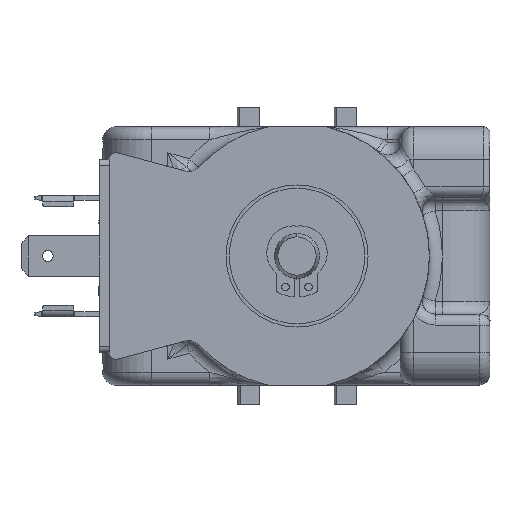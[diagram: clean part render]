
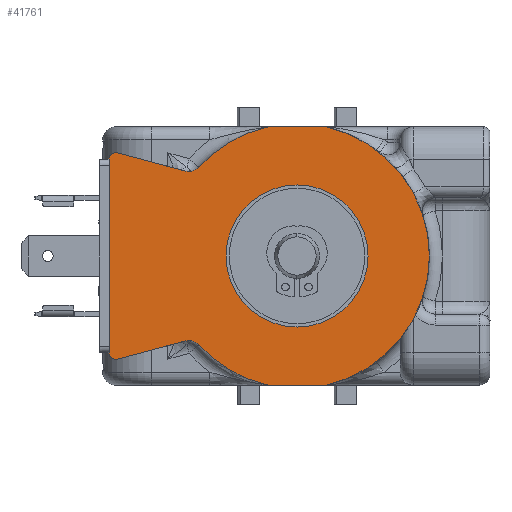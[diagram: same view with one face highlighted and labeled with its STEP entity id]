
A CAD part, front view. The second image highlights one B-rep face of the part: STEP entity #41761.
In plain terms, the highlighted planar face has unit normal (0, -1, 0).
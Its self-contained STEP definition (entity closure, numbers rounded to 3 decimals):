
#1483=DIRECTION('',(-1.,0.,0.));
#1484=VECTOR('',#1483,8.772);
#1485=CARTESIAN_POINT('',(4.5,-1.05,20.));
#1486=LINE('',#1485,#1484);
#4058=CARTESIAN_POINT('',(-28.107,-1.05,-15.025));
#4059=DIRECTION('',(0.,1.,0.));
#4060=DIRECTION('',(0.259,0.,-0.966));
#4061=AXIS2_PLACEMENT_3D('',#4058,#4059,#4060);
#4066=CARTESIAN_POINT('',(-28.107,-1.05,15.025));
#4067=DIRECTION('',(0.,1.,0.));
#4068=DIRECTION('',(-1.,0.,0.));
#4069=AXIS2_PLACEMENT_3D('',#4066,#4067,#4068);
#4074=DIRECTION('',(0.966,0.,-0.259));
#4075=VECTOR('',#4074,11.002);
#4076=CARTESIAN_POINT('',(-27.848,-1.05,15.991));
#4077=LINE('',#4076,#4075);
#4081=CARTESIAN_POINT('',(-16.703,-1.05,15.075));
#4082=DIRECTION('',(0.,-1.,0.));
#4083=DIRECTION('',(-0.259,0.,-0.966));
#4084=AXIS2_PLACEMENT_3D('',#4081,#4082,#4083);
#4089=CARTESIAN_POINT('',(0.,-1.05,0.));
#4090=DIRECTION('',(0.,1.,0.));
#4091=DIRECTION('',(-0.742,0.,0.67));
#4092=AXIS2_PLACEMENT_3D('',#4089,#4090,#4091);
#4097=CARTESIAN_POINT('',(-4.272,-1.05,18.));
#4098=DIRECTION('',(0.,1.,0.));
#4099=DIRECTION('',(-0.231,0.,0.973));
#4100=AXIS2_PLACEMENT_3D('',#4097,#4098,#4099);
#4105=CARTESIAN_POINT('',(0.,-1.05,0.));
#4106=DIRECTION('',(0.,1.,0.));
#4107=DIRECTION('',(0.22,0.,0.976));
#4108=AXIS2_PLACEMENT_3D('',#4105,#4106,#4107);
#4113=CARTESIAN_POINT('',(0.,-1.05,0.));
#4114=DIRECTION('',(0.,1.,0.));
#4115=DIRECTION('',(1.,0.,0.));
#4116=AXIS2_PLACEMENT_3D('',#4113,#4114,#4115);
#4121=DIRECTION('',(-1.,0.,0.));
#4122=VECTOR('',#4121,8.772);
#4123=CARTESIAN_POINT('',(4.5,-1.05,-20.));
#4124=LINE('',#4123,#4122);
#4128=CARTESIAN_POINT('',(-4.272,-1.05,-18.));
#4129=DIRECTION('',(0.,1.,0.));
#4130=DIRECTION('',(0.,0.,-1.));
#4131=AXIS2_PLACEMENT_3D('',#4128,#4129,#4130);
#4136=CARTESIAN_POINT('',(0.,-1.05,0.));
#4137=DIRECTION('',(0.,1.,0.));
#4138=DIRECTION('',(-0.231,0.,-0.973));
#4139=AXIS2_PLACEMENT_3D('',#4136,#4137,#4138);
#4144=CARTESIAN_POINT('',(-16.703,-1.05,-15.075));
#4145=DIRECTION('',(0.,-1.,0.));
#4146=DIRECTION('',(0.742,0.,0.67));
#4147=AXIS2_PLACEMENT_3D('',#4144,#4145,#4146);
#4152=DIRECTION('',(-0.966,0.,-0.259));
#4153=VECTOR('',#4152,11.002);
#4154=CARTESIAN_POINT('',(-17.221,-1.05,-13.143));
#4155=LINE('',#4154,#4153);
#4159=CARTESIAN_POINT('',(0.,-1.05,0.));
#4160=DIRECTION('',(0.,-1.,0.));
#4161=DIRECTION('',(0.,0.,1.));
#4162=AXIS2_PLACEMENT_3D('',#4159,#4160,#4161);
#4167=CARTESIAN_POINT('',(0.,-1.05,0.));
#4168=DIRECTION('',(0.,-1.,0.));
#4169=DIRECTION('',(0.,0.,-1.));
#4170=AXIS2_PLACEMENT_3D('',#4167,#4168,#4169);
#4447=DIRECTION('',(0.,0.,-1.));
#4448=VECTOR('',#4447,30.05);
#4449=CARTESIAN_POINT('',(-29.107,-1.05,15.025));
#4450=LINE('',#4449,#4448);
#34161=CARTESIAN_POINT('',(4.5,-1.05,20.));
#34162=VERTEX_POINT('',#34161);
#34163=CARTESIAN_POINT('',(-4.272,-1.05,20.));
#34164=VERTEX_POINT('',#34163);
#34368=CARTESIAN_POINT('',(-4.272,-1.05,-20.));
#34369=VERTEX_POINT('',#34368);
#34370=CARTESIAN_POINT('',(4.5,-1.05,-20.));
#34371=VERTEX_POINT('',#34370);
#37207=CARTESIAN_POINT('',(-29.107,-1.05,-15.025));
#37209=VERTEX_POINT('',#37207);
#37214=CARTESIAN_POINT('',(-29.107,-1.05,15.025));
#37215=VERTEX_POINT('',#37214);
#37432=CARTESIAN_POINT('',(0.,-1.05,11.));
#37433=CARTESIAN_POINT('',(0.,-1.05,-11.));
#37434=VERTEX_POINT('',#37432);
#37435=VERTEX_POINT('',#37433);
#37436=CARTESIAN_POINT('',(-27.848,-1.05,-15.991));
#37437=VERTEX_POINT('',#37436);
#37438=CARTESIAN_POINT('',(-27.848,-1.05,15.991));
#37439=VERTEX_POINT('',#37438);
#37440=CARTESIAN_POINT('',(-17.221,-1.05,13.143));
#37441=VERTEX_POINT('',#37440);
#37442=CARTESIAN_POINT('',(-15.218,-1.05,13.735));
#37443=VERTEX_POINT('',#37442);
#37444=CARTESIAN_POINT('',(-4.734,-1.05,19.946));
#37445=VERTEX_POINT('',#37444);
#37446=CARTESIAN_POINT('',(20.5,-1.05,0.));
#37447=VERTEX_POINT('',#37446);
#37448=CARTESIAN_POINT('',(-4.734,-1.05,-19.946));
#37449=VERTEX_POINT('',#37448);
#37450=CARTESIAN_POINT('',(-15.218,-1.05,-13.735));
#37451=VERTEX_POINT('',#37450);
#37452=CARTESIAN_POINT('',(-17.221,-1.05,-13.143));
#37453=VERTEX_POINT('',#37452);
#41723=CARTESIAN_POINT('',(-30.107,-1.05,-20.));
#41724=DIRECTION('',(0.,-1.,0.));
#41725=DIRECTION('',(1.,0.,0.));
#41726=AXIS2_PLACEMENT_3D('',#41723,#41724,#41725);
#41727=PLANE('',#41726);
#41729=ORIENTED_EDGE('',*,*,#41728,.T.);
#41731=ORIENTED_EDGE('',*,*,#41730,.F.);
#41732=ORIENTED_EDGE('',*,*,#41713,.T.);
#41733=ORIENTED_EDGE('',*,*,#41703,.T.);
#41734=ORIENTED_EDGE('',*,*,#41573,.T.);
#41736=ORIENTED_EDGE('',*,*,#41735,.T.);
#41738=ORIENTED_EDGE('',*,*,#41737,.T.);
#41739=ORIENTED_EDGE('',*,*,#39346,.F.);
#41741=ORIENTED_EDGE('',*,*,#41740,.T.);
#41743=ORIENTED_EDGE('',*,*,#41742,.T.);
#41744=ORIENTED_EDGE('',*,*,#40954,.T.);
#41746=ORIENTED_EDGE('',*,*,#41745,.T.);
#41748=ORIENTED_EDGE('',*,*,#41747,.T.);
#41750=ORIENTED_EDGE('',*,*,#41749,.T.);
#41752=ORIENTED_EDGE('',*,*,#41751,.T.);
#41753=EDGE_LOOP('',(#41729,#41731,#41732,#41733,#41734,#41736,#41738,#41739,
#41741,#41743,#41744,#41746,#41748,#41750,#41752));
#41754=FACE_OUTER_BOUND('',#41753,.F.);
#41756=ORIENTED_EDGE('',*,*,#41755,.T.);
#41758=ORIENTED_EDGE('',*,*,#41757,.T.);
#41759=EDGE_LOOP('',(#41756,#41758));
#41760=FACE_BOUND('',#41759,.F.);
#4062=CIRCLE('',#4061,1.);
#4070=CIRCLE('',#4069,1.);
#4085=CIRCLE('',#4084,2.);
#4093=CIRCLE('',#4092,20.5);
#4101=CIRCLE('',#4100,2.);
#4109=CIRCLE('',#4108,20.5);
#4117=CIRCLE('',#4116,20.5);
#4132=CIRCLE('',#4131,2.);
#4140=CIRCLE('',#4139,20.5);
#4148=CIRCLE('',#4147,2.);
#4163=CIRCLE('',#4162,11.);
#4171=CIRCLE('',#4170,11.);
#39346=EDGE_CURVE('',#34162,#34164,#1486,.T.);
#40954=EDGE_CURVE('',#34371,#34369,#4124,.T.);
#41573=EDGE_CURVE('',#37441,#37443,#4085,.T.);
#41703=EDGE_CURVE('',#37439,#37441,#4077,.T.);
#41713=EDGE_CURVE('',#37215,#37439,#4070,.T.);
#41728=EDGE_CURVE('',#37437,#37209,#4062,.T.);
#41730=EDGE_CURVE('',#37215,#37209,#4450,.T.);
#41735=EDGE_CURVE('',#37443,#37445,#4093,.T.);
#41737=EDGE_CURVE('',#37445,#34164,#4101,.T.);
#41740=EDGE_CURVE('',#34162,#37447,#4109,.T.);
#41742=EDGE_CURVE('',#37447,#34371,#4117,.T.);
#41745=EDGE_CURVE('',#34369,#37449,#4132,.T.);
#41747=EDGE_CURVE('',#37449,#37451,#4140,.T.);
#41749=EDGE_CURVE('',#37451,#37453,#4148,.T.);
#41751=EDGE_CURVE('',#37453,#37437,#4155,.T.);
#41755=EDGE_CURVE('',#37434,#37435,#4163,.T.);
#41757=EDGE_CURVE('',#37435,#37434,#4171,.T.);
#41761=ADVANCED_FACE('',(#41754,#41760),#41727,.T.);
